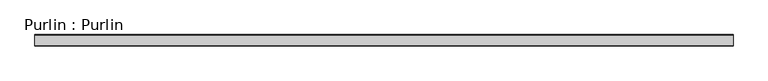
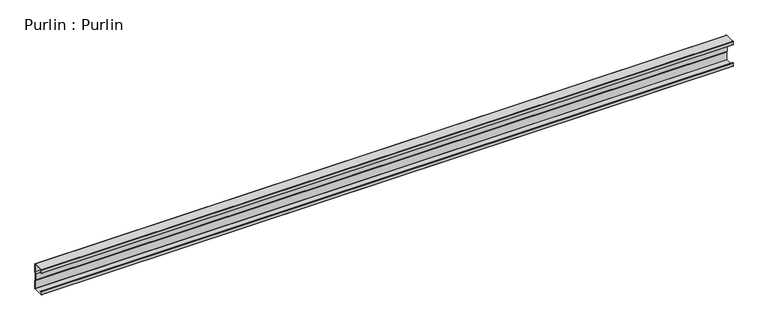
"""IFC4 building model written with IfcOpenShell, lengths in millimetres: beam geometry, Purlin : Purlin."""

from ifc_helpers import new_model, si_unit, point, frame, frame_2d, origin, place, context, project, spatial, polyline, circle_curve, trimmed, segment, composite_curve, outline, extrude, source, transform, mapped, element, save


def purlin_purlin_0a154449(model_context):
    return source(origin(), model_context, "Body", "SweptSolid", [
        extrude(outline(composite_curve([segment(polyline([(30.5, -75.0), (-30.5, -75.0)]), True, "CONTINUOUS"), segment(trimmed(circle_curve(frame_2d((-30.5, -73.5)), 1.5), [point((-30.5, -75.0))], [point((-32.0, -73.5))], False, "CARTESIAN"), True, "CONTINUOUS"), segment(polyline([(-32.0, -73.5), (-32.0, -55.5689158)]), True, "CONTINUOUS"), segment(trimmed(circle_curve(frame_2d((-30.5, -55.5689158)), 1.5), [point((-32.0, -55.5689158))], [point((-29.6183221, -54.3553903))], False, "CARTESIAN"), True, "CONTINUOUS"), segment(polyline([(-29.6183221, -54.3553903), (-22.7008639, -59.3812179), (-23.2886491, -60.1902349), (-30.2061074, -55.1644073)]), True, "CONTINUOUS"), segment(trimmed(circle_curve(frame_2d((-30.5, -55.5689158)), 0.5), [point((-30.2061074, -55.1644073))], [point((-31.0, -55.5689158))], True, "CARTESIAN"), True, "CONTINUOUS"), segment(polyline([(-31.0, -55.5689158), (-31.0, -73.0)]), True, "CONTINUOUS"), segment(trimmed(circle_curve(frame_2d((-30.0, -73.0)), 1.0), [point((-31.0, -73.0))], [point((-30.0, -74.0))], True, "CARTESIAN"), True, "CONTINUOUS"), segment(polyline([(-30.0, -74.0), (30.0, -74.0)]), True, "CONTINUOUS"), segment(trimmed(circle_curve(frame_2d((30.0, -73.0)), 1.0), [point((30.0, -74.0))], [point((31.0, -73.0))], True, "CARTESIAN"), True, "CONTINUOUS"), segment(polyline([(31.0, -73.0), (31.0, -26.8252474), (25.375, -18.9502474), (25.375, 18.7314974), (31.0, 26.3252474), (31.0, 73.0)]), True, "CONTINUOUS"), segment(trimmed(circle_curve(frame_2d((30.0, 73.0)), 1.0), [point((31.0, 73.0))], [point((30.0, 74.0))], True, "CARTESIAN"), True, "CONTINUOUS"), segment(polyline([(30.0, 74.0), (-30.0, 74.0)]), True, "CONTINUOUS"), segment(trimmed(circle_curve(frame_2d((-30.0, 73.0)), 1.0), [point((-30.0, 74.0))], [point((-31.0, 73.0))], True, "CARTESIAN"), True, "CONTINUOUS"), segment(polyline([(-31.0, 73.0), (-31.0, 55.5689158)]), True, "CONTINUOUS"), segment(trimmed(circle_curve(frame_2d((-30.5, 55.5689158)), 0.5), [point((-31.0, 55.5689158))], [point((-30.2061074, 55.1644073))], True, "CARTESIAN"), True, "CONTINUOUS"), segment(polyline([(-30.2061074, 55.1644073), (-23.2886491, 60.1902349), (-22.7008639, 59.3812179), (-29.6183221, 54.3553903)]), True, "CONTINUOUS"), segment(trimmed(circle_curve(frame_2d((-30.5, 55.5689158)), 1.5), [point((-29.6183221, 54.3553903))], [point((-32.0, 55.5689158))], False, "CARTESIAN"), True, "CONTINUOUS"), segment(polyline([(-32.0, 55.5689158), (-32.0, 73.5)]), True, "CONTINUOUS"), segment(trimmed(circle_curve(frame_2d((-30.5, 73.5)), 1.5), [point((-32.0, 73.5))], [point((-30.5, 75.0))], False, "CARTESIAN"), True, "CONTINUOUS"), segment(polyline([(-30.5, 75.0), (30.5, 75.0)]), True, "CONTINUOUS"), segment(trimmed(circle_curve(frame_2d((30.5, 73.5)), 1.5), [point((30.5, 75.0))], [point((32.0, 73.5))], False, "CARTESIAN"), True, "CONTINUOUS"), segment(polyline([(32.0, 73.5), (32.0, 25.9952176), (26.375, 18.4014676), (26.375, -18.6297824), (32.0, -26.5047824), (32.0, -73.5)]), True, "CONTINUOUS"), segment(trimmed(circle_curve(frame_2d((30.5, -73.5)), 1.5), [point((32.0, -73.5))], [point((30.5, -75.0))], False, "CARTESIAN"), True, "CONTINUOUS")], self_intersect=False)), frame((-1958.5791696, 0.0, 0.0), z_axis=(1.0, 0.0, 0.0), x_axis=(0.0, 1.0, 0.0)), (0.0, 0.0, 1.0), 3917.1583392),
    ])


if __name__ == "__main__":
    model = new_model("IFC4")
    model_context = context("Model", 3, world=origin())
    ifc_project = project(units=[si_unit("LENGTHUNIT", "METRE", prefix="MILLI")], contexts=[model_context])
    site = spatial("IfcSite", under=ifc_project)
    building = spatial("IfcBuilding", under=site)
    placement = place(None, origin())
    purlin_purlin_shape = purlin_purlin_0a154449(model_context)
    element("IfcBeam", 1, ObjectType="Purlin : Purlin", at=placement, inside=building, context=model_context, shape_type="MappedRepresentation", body=[
        mapped(purlin_purlin_shape, transform((0.0, 0.0, 0.0), x_axis=(1.0, 0.0, 0.0), y_axis=(0.0, 1.0, 0.0), z_axis=(0.0, 0.0, 1.0))),
    ])
    save(model, "model.ifc")
